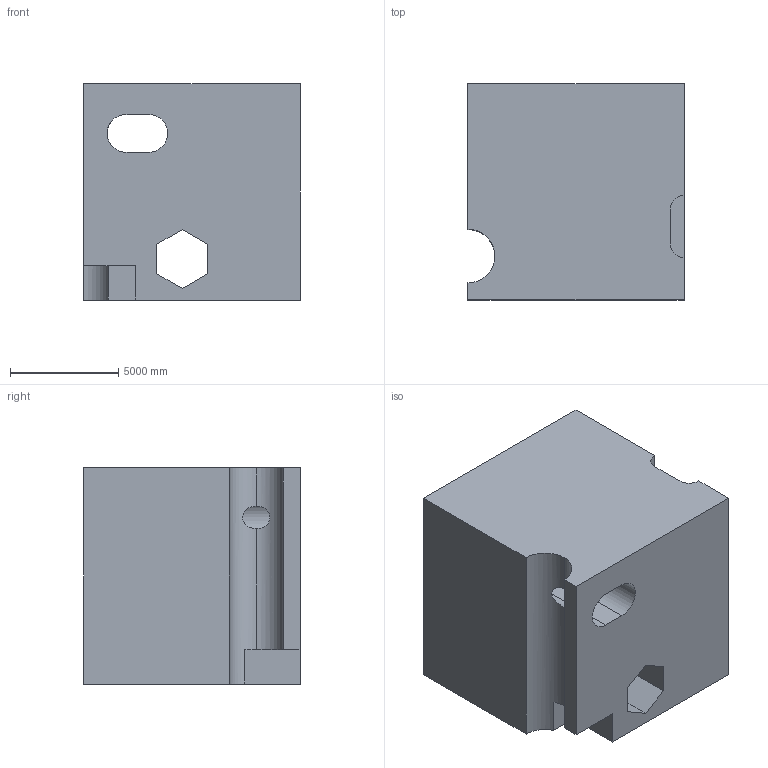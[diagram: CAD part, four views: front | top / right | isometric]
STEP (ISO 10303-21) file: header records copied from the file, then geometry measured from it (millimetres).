
FILE_DESCRIPTION (( 'STEP AP203' ), '1' );
FILE_NAME ('1494.STEP', '2022-08-18T14:49:18', ( 'user' ), ( '' ), 'SwSTEP 2.0', 'SolidWorks 2021', '' );
FILE_SCHEMA (( 'CONFIG_CONTROL_DESIGN' ));
Length unit declared in the file: centimetre
Products named in the file (1): 1494
Bounding box: 10000 x 10000 x 10000 mm (x, y, z)
Volume: 875052263532.1 mm3; surface area: 745405693 mm2
Topology: 1 solids, 1 shells, 26 faces, 75 edges, 50 vertices
Faces by surface type: plane 20, cylinder 6
Entity records: 1191 total; most frequent: CARTESIAN_POINT 406, ORIENTED_EDGE 150, DIRECTION 140, EDGE_CURVE 75, LINE 60, VECTOR 60, VERTEX_POINT 50, AXIS2_PLACEMENT_3D 40
